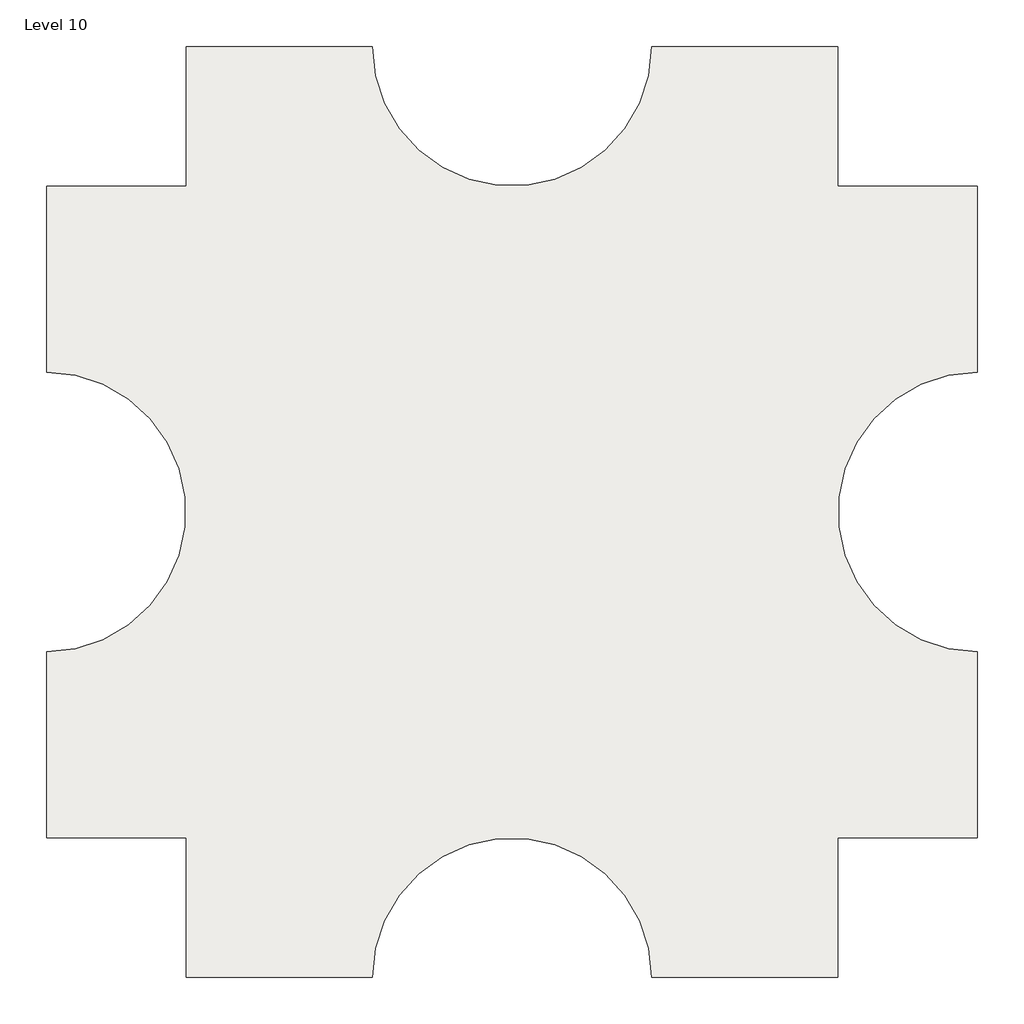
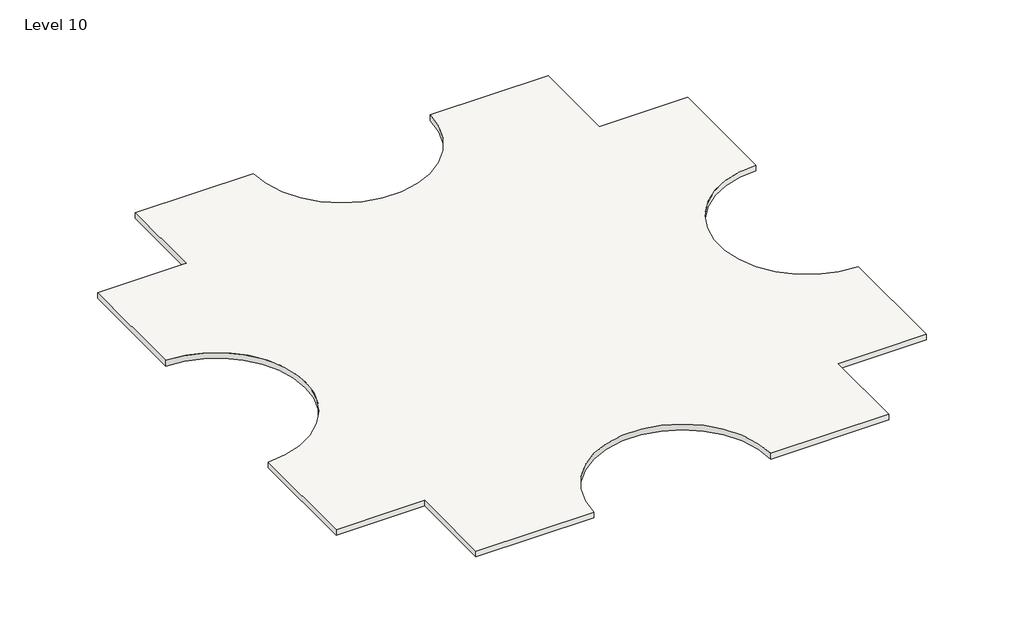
# One storey: 1 slab.
"""IFC4 building model written with IfcOpenShell, lengths in millimetres."""

import ifcopenshell
import ifcopenshell.guid

model = None  # the IFC model being written
_history = None  # IfcOwnerHistory: only IFC2X3 demands one
_inside = {}  # id of a spatial element -> (the spatial element, [elements in it])
_under = {}  # id of a project, library or spatial element -> (it, [spatial elements below it])
_declared = {}  # id of a project -> (the project, [libraries it declares])
_typed = {}  # id of a type object -> (the type object, [elements of that type])
_made_of = {}  # id of a material, layer set ... -> (it, [elements and type objects made of it])


def new_model(schema):
    """Start an empty IFC model of exactly this schema.

    Asked for "IFC4X3", IfcOpenShell would pick the latest addendum, in which some entities
    have other attributes; the version numbers below select the first issue.
    IFC2X3 requires an IfcOwnerHistory on every rooted entity: one is made here for all.
    """
    global model, _history
    if schema == "IFC4X3":
        model = ifcopenshell.file(schema_version=(4, 3, 0, 0))
    else:
        model = ifcopenshell.file(schema=schema)
    _inside.clear()
    _under.clear()
    _declared.clear()
    _typed.clear()
    _made_of.clear()
    _history = None
    if model.schema == "IFC2X3":
        org = make("IfcOrganization", Name="unknown")
        user = make(
            "IfcPersonAndOrganization",
            ThePerson=make("IfcPerson", FamilyName="unknown"),
            TheOrganization=org,
        )
        app = make(
            "IfcApplication",
            ApplicationDeveloper=org,
            Version="unknown",
            ApplicationFullName="unknown",
            ApplicationIdentifier="unknown",
        )
        _history = make(
            "IfcOwnerHistory",
            OwningUser=user,
            OwningApplication=app,
            ChangeAction="ADDED",
            CreationDate=0,
        )
    return model


def make(cls, **values):
    """One entity of the class cls with the attributes given. An attribute that is None is left unset."""
    return model.create_entity(
        cls, **{name: value for name, value in values.items() if value is not None}
    )


def rooted(cls, **values):
    """An entity with a GlobalId (a new one), such as an element, a storey or a relation."""
    return make(cls, GlobalId=ifcopenshell.guid.new(), OwnerHistory=_history, **values)


def si_unit(unit_type, name, prefix=None):
    """IfcSIUnit, for example si_unit("LENGTHUNIT", "METRE", prefix="MILLI")."""
    return make("IfcSIUnit", UnitType=unit_type, Prefix=prefix, Name=name)


def assignment(units):
    """IfcUnitAssignment: the units of a project."""
    return None if units is None else make("IfcUnitAssignment", Units=units)


def point(xyz):
    """IfcCartesianPoint."""
    return None if xyz is None else make("IfcCartesianPoint", Coordinates=xyz)


def direction(xyz):
    """IfcDirection."""
    return None if xyz is None else make("IfcDirection", DirectionRatios=xyz)


def frame(location, z_axis=None, x_axis=None):
    """IfcAxis2Placement3D, a coordinate frame: its origin and axes. An axis left out is left unset."""
    return make(
        "IfcAxis2Placement3D",
        Location=point(location),
        Axis=direction(z_axis),
        RefDirection=direction(x_axis),
    )


def frame_2d(location, x_axis=None):
    """IfcAxis2Placement2D, a coordinate frame in the plane: its origin and x axis."""
    return make(
        "IfcAxis2Placement2D", Location=point(location), RefDirection=direction(x_axis)
    )


def origin():
    """The frame at (0, 0, 0) with its axes left unset."""
    return frame((0.0, 0.0, 0.0))


def place(relative_to, where):
    """IfcLocalPlacement: puts the frame where relative to a parent placement (None: the world)."""
    return make(
        "IfcLocalPlacement", PlacementRelTo=relative_to, RelativePlacement=where
    )


def context(
    kind, dimensions, precision=None, world=None, true_north=None, identifier=None
):
    """IfcGeometricRepresentationContext, for example the 3D "Model" context."""
    return make(
        "IfcGeometricRepresentationContext",
        ContextIdentifier=identifier,
        ContextType=kind,
        CoordinateSpaceDimension=dimensions,
        Precision=precision,
        WorldCoordinateSystem=world,
        TrueNorth=true_north,
    )


def project(units=None, contexts=None):
    """IfcProject with its units and contexts."""
    return rooted(
        "IfcProject",
        Name="project",
        RepresentationContexts=contexts,
        UnitsInContext=assignment(units),
    )


def spatial(cls, under=None, at=None, **own):
    """A site, building, storey or space (cls), placed at a placement, below another one or the project."""
    s = rooted(cls, ObjectPlacement=at, **own)
    if under is not None:
        _under.setdefault(under.id(), (under, []))[1].append(s)
    return s


def polyline(points):
    """IfcPolyline through the points."""
    return make("IfcPolyline", Points=[point(p) for p in points])


def circle_curve(where, radius):
    """IfcCircle in the frame where."""
    return make("IfcCircle", Position=where, Radius=radius)


def trimmed(basis, trim1, trim2, sense, master):
    """IfcTrimmedCurve: the piece of a basis curve between two trims."""
    return make(
        "IfcTrimmedCurve",
        BasisCurve=basis,
        Trim1=trim1,
        Trim2=trim2,
        SenseAgreement=sense,
        MasterRepresentation=master,
    )


def segment(curve, same_sense, transition):
    """IfcCompositeCurveSegment."""
    return make(
        "IfcCompositeCurveSegment",
        Transition=transition,
        SameSense=same_sense,
        ParentCurve=curve,
    )


def composite_curve(segments, self_intersect=None):
    """IfcCompositeCurve: segments joined end to end."""
    return make("IfcCompositeCurve", Segments=segments, SelfIntersect=self_intersect)


def outline(outer, holes=None, kind="AREA"):
    """IfcArbitraryClosedProfileDef: a profile drawn as a closed curve; with holes, ...WithVoids."""
    if holes is None:
        return make("IfcArbitraryClosedProfileDef", ProfileType=kind, OuterCurve=outer)
    return make(
        "IfcArbitraryProfileDefWithVoids",
        ProfileType=kind,
        OuterCurve=outer,
        InnerCurves=holes,
    )


def extrude(swept, where, along, depth):
    """IfcExtrudedAreaSolid: the profile swept, set in the frame where, extruded along a direction by depth."""
    return make(
        "IfcExtrudedAreaSolid",
        SweptArea=swept,
        Position=where,
        ExtrudedDirection=direction(along),
        Depth=depth,
    )


def shape(context_of_items, identifier, shape_type, items):
    """IfcShapeRepresentation: the items that make up one representation, for example the "Body"."""
    return make(
        "IfcShapeRepresentation",
        ContextOfItems=context_of_items,
        RepresentationIdentifier=identifier,
        RepresentationType=shape_type,
        Items=items,
    )


def made_of(thing, what):
    """Note that an element or type object is made of a material, layer set ...; save() writes the relation."""
    if what is not None:
        _made_of.setdefault(what.id(), (what, []))[1].append(thing)
    return thing


def element(
    cls,
    number,
    at=None,
    inside=None,
    cuts=None,
    type_object=None,
    material=None,
    context=None,
    identifier="Body",
    shape_type=None,
    held_by="IfcProductDefinitionShape",
    body=None,
    shapes=None,
    **own,
):
    """One element of the class cls, such as IfcWall. Its Tag is "e" and its number.

    at: its placement. inside: the storey or other place that contains it. cuts: it is an
    opening in that element (IfcRelVoidsElement). A single representation is given by context,
    identifier, shape_type and body (its items); several are given by shapes. held_by: the class
    of the entity that holds the representations. save() writes the other relations.
    """
    e = rooted(cls, Tag="e%d" % number, ObjectPlacement=at, **own)
    if body is not None:
        shapes = [shape(context, identifier, shape_type, body)]
    if shapes is not None:
        e.Representation = make(held_by, Representations=shapes)
    if inside is not None:
        _inside.setdefault(inside.id(), (inside, []))[1].append(e)
    if cuts is not None:
        rooted(
            "IfcRelVoidsElement", RelatingBuildingElement=cuts, RelatedOpeningElement=e
        )
    if type_object is not None:
        _typed.setdefault(type_object.id(), (type_object, []))[1].append(e)
    return made_of(e, material)


def aggregate(whole, parts):
    """IfcRelAggregates: a whole, such as a stair, and the parts it consists of."""
    return rooted("IfcRelAggregates", RelatingObject=whole, RelatedObjects=parts)


def save(model, path):
    """Write the relations noted so far, then the file.

    IfcRelAggregates (storeys below a building ...), IfcRelContainedInSpatialStructure (elements
    in a storey), IfcRelDefinesByType, IfcRelAssociatesMaterial and IfcRelDeclares: one each for
    every whole, place, type object, material and project.
    """
    for whole, parts in _under.values():
        aggregate(whole, parts)
    for where, things in _inside.values():
        rooted(
            "IfcRelContainedInSpatialStructure",
            RelatedElements=things,
            RelatingStructure=where,
        )
    for kind, things in _typed.values():
        rooted("IfcRelDefinesByType", RelatedObjects=things, RelatingType=kind)
    for what, things in _made_of.values():
        rooted("IfcRelAssociatesMaterial", RelatedObjects=things, RelatingMaterial=what)
    for by, libraries in _declared.values():
        rooted("IfcRelDeclares", RelatingContext=by, RelatedDefinitions=libraries)
    model.write(path)


model = new_model("IFC4")

# Units and contexts
model_context = context("Model", 3, world=origin())
ifc_project = project(units=[si_unit("LENGTHUNIT", "METRE", prefix="MILLI")], contexts=[model_context])

# Site, building, storey
site = spatial("IfcSite", under=ifc_project)
building = spatial("IfcBuilding", under=site)
storey = spatial("IfcBuildingStorey", under=building, Name="Level 10", Elevation=27432.0)

# Slab
placement = place(None, origin())
element("IfcSlab", 1, ObjectType="Generic - 12\"", at=placement, inside=storey, context=model_context, shape_type="SweptSolid", body=[
    extrude(outline(composite_curve([segment(polyline([(-7150.3629456, 4479.6634547), (-7150.3629456, 9051.6634547), (-1054.3629456, 9051.6634547)]), True, "CONTINUOUS"), segment(trimmed(circle_curve(frame_2d((3517.6370544, 9051.6634547)), 4572.0), [point((-1054.3629456, 9051.6634547))], [point((8089.6370544, 9051.6634547))], True, "CARTESIAN"), True, "CONTINUOUS"), segment(polyline([(8089.6370544, 9051.6634547), (14185.6370544, 9051.6634547), (14185.6370544, 4479.6634547), (18757.6370544, 4479.6634547), (18757.6370544, -1616.3365453)]), True, "CONTINUOUS"), segment(trimmed(circle_curve(frame_2d((18757.6370544, -6188.3365453)), 4572.0), [point((18757.6370544, -1616.3365453))], [point((18757.6370544, -10760.3365453))], True, "CARTESIAN"), True, "CONTINUOUS"), segment(polyline([(18757.6370544, -10760.3365453), (18757.6370544, -16856.3365453), (14185.6370544, -16856.3365453), (14185.6370544, -21428.3365453), (8089.6370544, -21428.3365453)]), True, "CONTINUOUS"), segment(trimmed(circle_curve(frame_2d((3517.6370544, -21428.3365453)), 4572.0), [point((8089.6370544, -21428.3365453))], [point((-1054.3629456, -21428.3365453))], True, "CARTESIAN"), True, "CONTINUOUS"), segment(polyline([(-1054.3629456, -21428.3365453), (-7150.3629456, -21428.3365453), (-7150.3629456, -16856.3365453), (-11722.3629456, -16856.3365453), (-11722.3629456, -10760.3365453)]), True, "CONTINUOUS"), segment(trimmed(circle_curve(frame_2d((-11722.3629456, -6188.3365453)), 4572.0), [point((-11722.3629456, -10760.3365453))], [point((-11722.3629456, -1616.3365453))], True, "CARTESIAN"), True, "CONTINUOUS"), segment(polyline([(-11722.3629456, -1616.3365453), (-11722.3629456, 4479.6634547), (-7150.3629456, 4479.6634547)]), True, "CONTINUOUS")], self_intersect=False)), frame((0.0, 0.0, 27127.2), z_axis=(0.0, 0.0, 1.0), x_axis=(1.0, 0.0, 0.0)), (0.0, 0.0, 1.0), 304.8),
])

save(model, "model.ifc")
